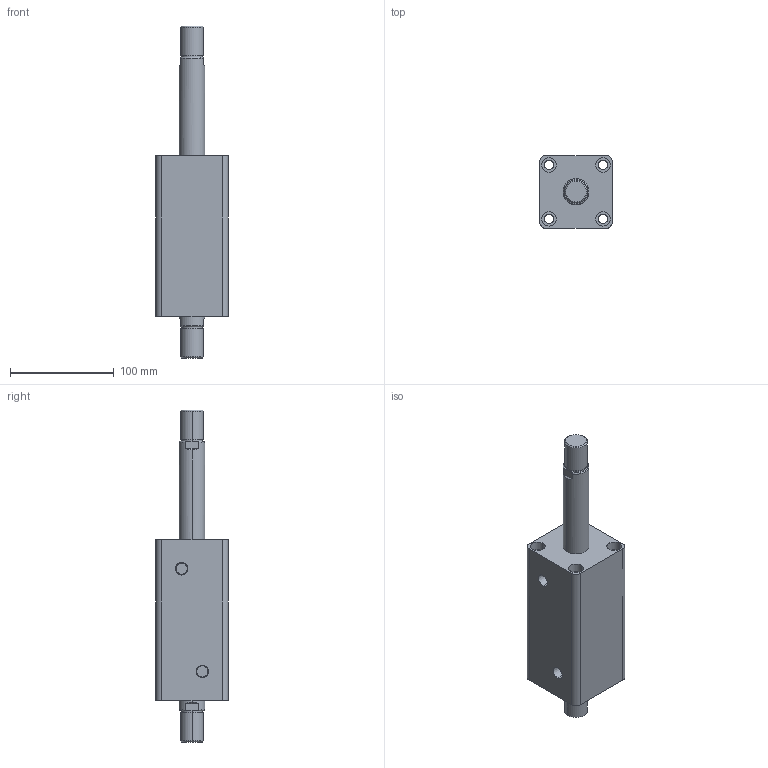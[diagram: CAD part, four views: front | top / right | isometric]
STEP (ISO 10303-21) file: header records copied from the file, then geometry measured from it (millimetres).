
FILE_DESCRIPTION (( 'STEP AP203' ), '1' );
FILE_NAME ('HTB-SW40-85W.STEP', '2019-10-07T09:12:40', ( '微软用户' ), ( '微软中国' ), 'SwSTEP 2.0', 'SolidWorks 2012', '' );
FILE_SCHEMA (( 'CONFIG_CONTROL_DESIGN' ));
Length unit declared in the file: millimetre
Products named in the file (3): HTB-SW40-85W; HTB-SW40-85W活塞杆; HTB-SW40-85掛极
Assembly tree (2 placements, depth 2):
  HTB-SW40-85W
    HTB-SW40-85掛极
    HTB-SW40-85W活塞杆
Bounding box: 70 x 70 x 320 mm (x, y, z)
Volume: 715265.5 mm3; surface area: 115732.2 mm2
Topology: 2 solids, 2 shells, 108 faces, 240 edges, 156 vertices
Faces by surface type: cylinder 52, plane 36, torus 12, cone 8
Entity records: 3449 total; most frequent: CARTESIAN_POINT 629, DIRECTION 586, ORIENTED_EDGE 480, AXIS2_PLACEMENT_3D 249, EDGE_CURVE 240, VERTEX_POINT 156, EDGE_LOOP 138, CIRCLE 136
